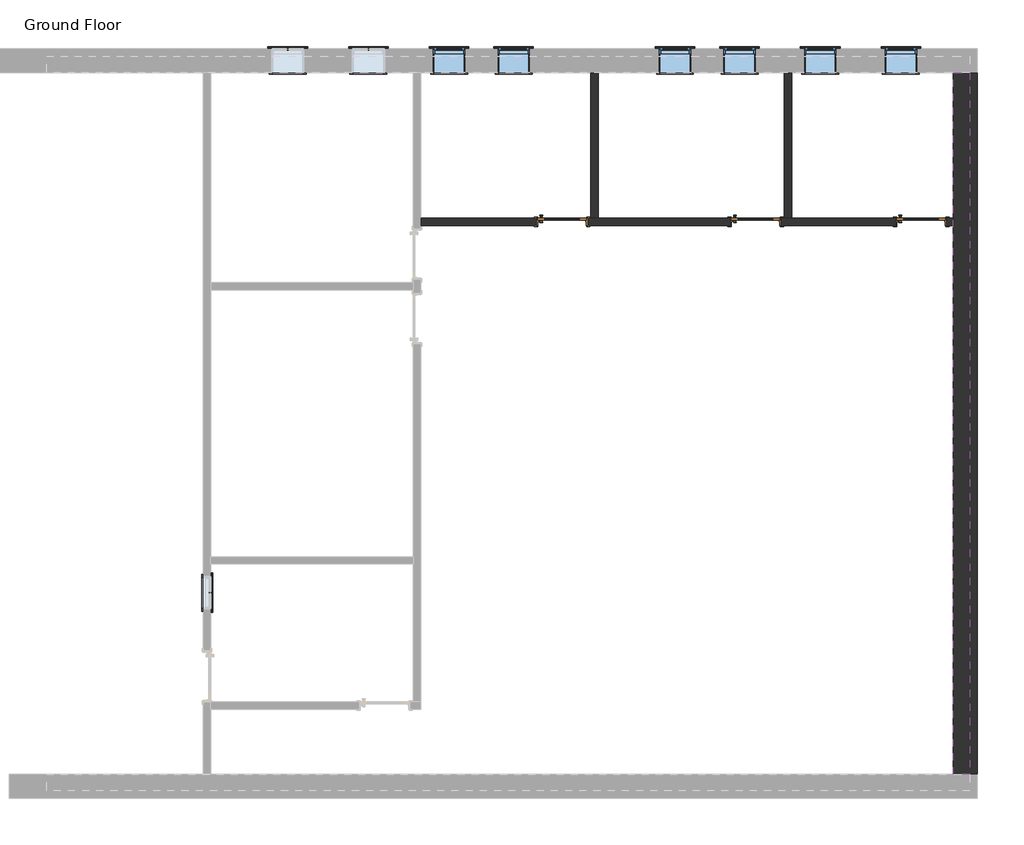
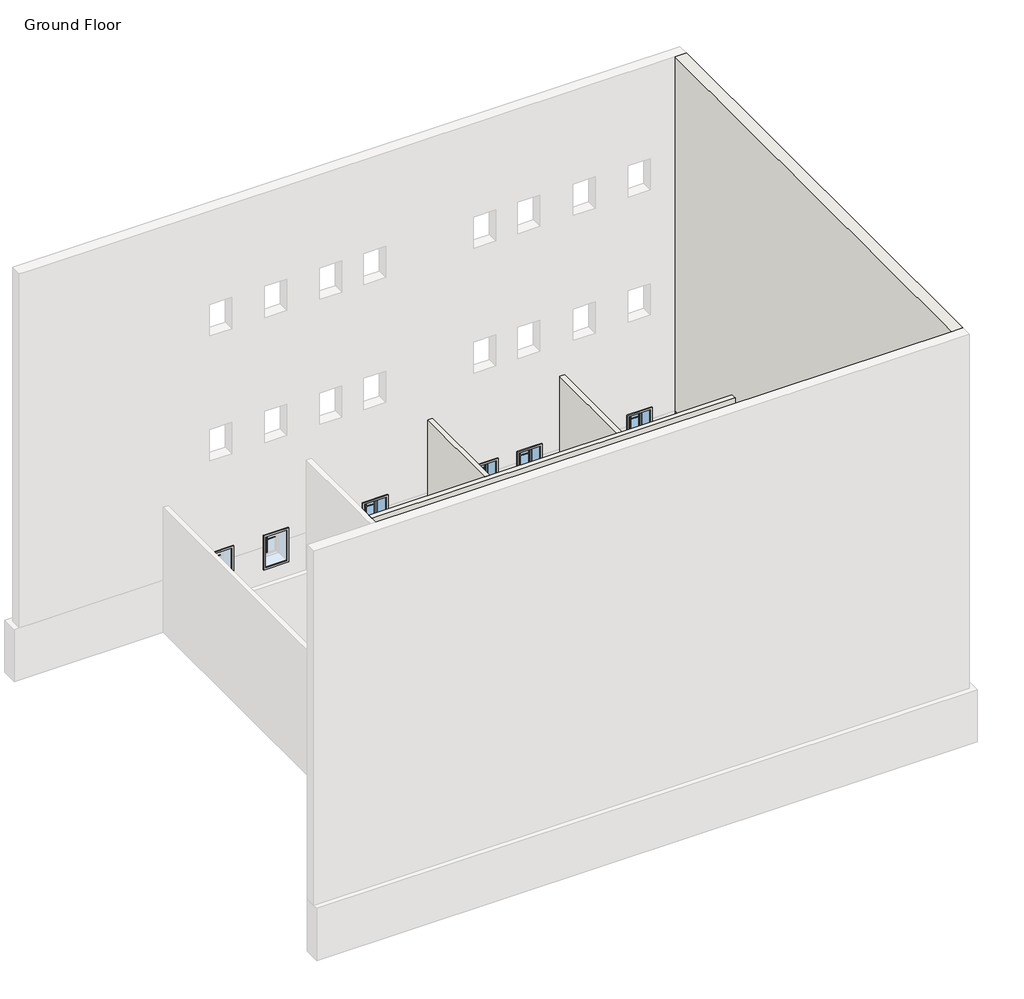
# One storey, part 2 of 2: 27 proxies, 6 windows, 5 walls, 3 doors.
"""IFC4 building model written with IfcOpenShell, lengths in millimetres."""

from ifc_helpers import new_model, si_unit, frame, origin, origin_with_axes, place, context, project, spatial, polyline, outline, extrude, faceted_brep, transform, mapped, element, save
from components import muntin_pattern_2x2_muntin_pattern_2x2_cf4092f1, muntin_pattern_2x2_muntin_pattern_2x2_49143b38, trim_window_exterior_flat_with_sill_a665a915, trim_window_exterior_flat_with_sill_4c72db77, trim_window_interior_flat_picture_frame_d485c387, trim_window_interior_flat_picture_frame_dfd23ff3, door_918c180d, window_1658a7ae, window_2d4a29d0

model = new_model("IFC4")

# Units and contexts
model_context = context("Model", 3, world=origin())
ifc_project = project(units=[si_unit("LENGTHUNIT", "METRE", prefix="MILLI")], contexts=[model_context])

# Site, building, storey
site = spatial("IfcSite", under=ifc_project)
building = spatial("IfcBuilding", under=site)
storey = spatial("IfcBuildingStorey", under=building, Name="Ground Floor", Elevation=0.0)

# Proxies
placement = place(None, origin())
muntin_pattern_2x2_muntin_pattern_2x2_shape = muntin_pattern_2x2_muntin_pattern_2x2_cf4092f1(model_context)
element("IfcBuildingElementProxy", 1, Name="Muntin Pattern_2x2 : Muntin Pattern_2x2", ObjectType="Muntin Pattern_2x2 : Muntin Pattern_2x2", at=placement, inside=storey, context=model_context, shape_type="MappedRepresentation", body=[
    mapped(muntin_pattern_2x2_muntin_pattern_2x2_shape, transform((-14168.6597136, 1858.8705992, 984.25), x_axis=(0.0, -1.0, 0.0), y_axis=(1.0, 0.0, 0.0), z_axis=(0.0, 0.0, 1.0))),
])
element("IfcBuildingElementProxy", 2, Name="Muntin Pattern_2x2 : Muntin Pattern_2x2", ObjectType="Muntin Pattern_2x2 : Muntin Pattern_2x2", at=placement, inside=storey, context=model_context, shape_type="MappedRepresentation", body=[
    mapped(muntin_pattern_2x2_muntin_pattern_2x2_shape, transform((-1122.5847136, 12134.7580992, 984.25), x_axis=(1.0, 0.0, 0.0), y_axis=(0.0, 1.0, 0.0), z_axis=(0.0, 0.0, 1.0))),
])
element("IfcBuildingElementProxy", 3, Name="Muntin Pattern_2x2 : Muntin Pattern_2x2", ObjectType="Muntin Pattern_2x2 : Muntin Pattern_2x2", at=placement, inside=storey, context=model_context, shape_type="MappedRepresentation", body=[
    mapped(muntin_pattern_2x2_muntin_pattern_2x2_shape, transform((-2646.5847136, 12134.7580992, 984.25), x_axis=(1.0, 0.0, 0.0), y_axis=(0.0, 1.0, 0.0), z_axis=(0.0, 0.0, 1.0))),
])
element("IfcBuildingElementProxy", 4, Name="Muntin Pattern_2x2 : Muntin Pattern_2x2", ObjectType="Muntin Pattern_2x2 : Muntin Pattern_2x2", at=placement, inside=storey, context=model_context, shape_type="MappedRepresentation", body=[
    mapped(muntin_pattern_2x2_muntin_pattern_2x2_shape, transform((-4170.5847136, 12134.7580992, 984.25), x_axis=(1.0, 0.0, 0.0), y_axis=(0.0, 1.0, 0.0), z_axis=(0.0, 0.0, 1.0))),
])
element("IfcBuildingElementProxy", 5, Name="Muntin Pattern_2x2 : Muntin Pattern_2x2", ObjectType="Muntin Pattern_2x2 : Muntin Pattern_2x2", at=placement, inside=storey, context=model_context, shape_type="MappedRepresentation", body=[
    mapped(muntin_pattern_2x2_muntin_pattern_2x2_shape, transform((-5389.7847136, 12134.7580992, 984.25), x_axis=(1.0, 0.0, 0.0), y_axis=(0.0, 1.0, 0.0), z_axis=(0.0, 0.0, 1.0))),
])
muntin_pattern_2x2_muntin_pattern_2x2_2_shape = muntin_pattern_2x2_muntin_pattern_2x2_49143b38(model_context)
element("IfcBuildingElementProxy", 6, Name="Muntin Pattern_2x2 : Muntin Pattern_2x2", ObjectType="Muntin Pattern_2x2 : Muntin Pattern_2x2", at=placement, inside=storey, context=model_context, shape_type="MappedRepresentation", body=[
    mapped(muntin_pattern_2x2_muntin_pattern_2x2_2_shape, transform((-12704.9847136, 12134.7580992, 984.25), x_axis=(-1.0, 0.0, 0.0), y_axis=(0.0, -1.0, 0.0), z_axis=(0.0, 0.0, 1.0))),
])
element("IfcBuildingElementProxy", 7, Name="Muntin Pattern_2x2 : Muntin Pattern_2x2", ObjectType="Muntin Pattern_2x2 : Muntin Pattern_2x2", at=placement, inside=storey, context=model_context, shape_type="MappedRepresentation", body=[
    mapped(muntin_pattern_2x2_muntin_pattern_2x2_2_shape, transform((-11180.9847136, 12134.7580992, 984.25), x_axis=(-1.0, 0.0, 0.0), y_axis=(0.0, -1.0, 0.0), z_axis=(0.0, 0.0, 1.0))),
])
element("IfcBuildingElementProxy", 8, Name="Muntin Pattern_2x2 : Muntin Pattern_2x2", ObjectType="Muntin Pattern_2x2 : Muntin Pattern_2x2", at=placement, inside=storey, context=model_context, shape_type="MappedRepresentation", body=[
    mapped(muntin_pattern_2x2_muntin_pattern_2x2_2_shape, transform((-9656.9847136, 12134.7580992, 984.25), x_axis=(-1.0, 0.0, 0.0), y_axis=(0.0, -1.0, 0.0), z_axis=(0.0, 0.0, 1.0))),
])
element("IfcBuildingElementProxy", 9, Name="Muntin Pattern_2x2 : Muntin Pattern_2x2", ObjectType="Muntin Pattern_2x2 : Muntin Pattern_2x2", at=placement, inside=storey, context=model_context, shape_type="MappedRepresentation", body=[
    mapped(muntin_pattern_2x2_muntin_pattern_2x2_2_shape, transform((-8437.7847136, 12134.7580992, 984.25), x_axis=(-1.0, 0.0, 0.0), y_axis=(0.0, -1.0, 0.0), z_axis=(0.0, 0.0, 1.0))),
])
trim_window_exterior_flat_with_sill_shape = trim_window_exterior_flat_with_sill_a665a915(model_context)
element("IfcBuildingElementProxy", 10, Name="Trim-Window-Exterior-Flat : with Sill", ObjectType="Trim-Window-Exterior-Flat : with Sill", at=placement, inside=storey, context=model_context, shape_type="MappedRepresentation", body=[
    mapped(trim_window_exterior_flat_with_sill_shape, transform((-14159.1347136, 1858.8705992, 1828.8), x_axis=(0.0, 1.0, 0.0), y_axis=(0.0, 0.0, 1.0), z_axis=(1.0, 0.0, 0.0))),
])
element("IfcBuildingElementProxy", 11, Name="Trim-Window-Exterior-Flat : with Sill", ObjectType="Trim-Window-Exterior-Flat : with Sill", at=placement, inside=storey, context=model_context, shape_type="MappedRepresentation", body=[
    mapped(trim_window_exterior_flat_with_sill_shape, transform((-1122.5847136, 12144.2830992, 1828.8), x_axis=(-1.0, 0.0, 0.0), y_axis=(0.0, 0.0, 1.0), z_axis=(0.0, 1.0, 0.0))),
])
element("IfcBuildingElementProxy", 12, Name="Trim-Window-Exterior-Flat : with Sill", ObjectType="Trim-Window-Exterior-Flat : with Sill", at=placement, inside=storey, context=model_context, shape_type="MappedRepresentation", body=[
    mapped(trim_window_exterior_flat_with_sill_shape, transform((-2646.5847136, 12144.2830992, 1828.8), x_axis=(-1.0, 0.0, 0.0), y_axis=(0.0, 0.0, 1.0), z_axis=(0.0, 1.0, 0.0))),
])
element("IfcBuildingElementProxy", 13, Name="Trim-Window-Exterior-Flat : with Sill", ObjectType="Trim-Window-Exterior-Flat : with Sill", at=placement, inside=storey, context=model_context, shape_type="MappedRepresentation", body=[
    mapped(trim_window_exterior_flat_with_sill_shape, transform((-4170.5847136, 12144.2830992, 1828.8), x_axis=(-1.0, 0.0, 0.0), y_axis=(0.0, 0.0, 1.0), z_axis=(0.0, 1.0, 0.0))),
])
element("IfcBuildingElementProxy", 14, Name="Trim-Window-Exterior-Flat : with Sill", ObjectType="Trim-Window-Exterior-Flat : with Sill", at=placement, inside=storey, context=model_context, shape_type="MappedRepresentation", body=[
    mapped(trim_window_exterior_flat_with_sill_shape, transform((-5389.7847136, 12144.2830992, 1828.8), x_axis=(-1.0, 0.0, 0.0), y_axis=(0.0, 0.0, 1.0), z_axis=(0.0, 1.0, 0.0))),
])
trim_window_exterior_flat_with_sill_2_shape = trim_window_exterior_flat_with_sill_4c72db77(model_context)
element("IfcBuildingElementProxy", 15, Name="Trim-Window-Exterior-Flat : with Sill", ObjectType="Trim-Window-Exterior-Flat : with Sill", at=placement, inside=storey, context=model_context, shape_type="MappedRepresentation", body=[
    mapped(trim_window_exterior_flat_with_sill_2_shape, transform((-12704.9847136, 12144.2830992, 1828.8), x_axis=(1.0, 0.0, 0.0), y_axis=(0.0, 0.0, -1.0), z_axis=(0.0, 1.0, 0.0))),
])
element("IfcBuildingElementProxy", 16, Name="Trim-Window-Exterior-Flat : with Sill", ObjectType="Trim-Window-Exterior-Flat : with Sill", at=placement, inside=storey, context=model_context, shape_type="MappedRepresentation", body=[
    mapped(trim_window_exterior_flat_with_sill_2_shape, transform((-11180.9847136, 12144.2830992, 1828.8), x_axis=(1.0, 0.0, 0.0), y_axis=(0.0, 0.0, -1.0), z_axis=(0.0, 1.0, 0.0))),
])
element("IfcBuildingElementProxy", 17, Name="Trim-Window-Exterior-Flat : with Sill", ObjectType="Trim-Window-Exterior-Flat : with Sill", at=placement, inside=storey, context=model_context, shape_type="MappedRepresentation", body=[
    mapped(trim_window_exterior_flat_with_sill_2_shape, transform((-9656.9847136, 12144.2830992, 1828.8), x_axis=(1.0, 0.0, 0.0), y_axis=(0.0, 0.0, -1.0), z_axis=(0.0, 1.0, 0.0))),
])
element("IfcBuildingElementProxy", 18, Name="Trim-Window-Exterior-Flat : with Sill", ObjectType="Trim-Window-Exterior-Flat : with Sill", at=placement, inside=storey, context=model_context, shape_type="MappedRepresentation", body=[
    mapped(trim_window_exterior_flat_with_sill_2_shape, transform((-8437.7847136, 12144.2830992, 1828.8), x_axis=(1.0, 0.0, 0.0), y_axis=(0.0, 0.0, -1.0), z_axis=(0.0, 1.0, 0.0))),
])
trim_window_interior_flat_picture_frame_shape = trim_window_interior_flat_picture_frame_d485c387(model_context)
element("IfcBuildingElementProxy", 19, Name="Trim-Window-Interior-Flat : Picture Frame", ObjectType="Trim-Window-Interior-Flat : Picture Frame", at=placement, inside=storey, context=model_context, shape_type="MappedRepresentation", body=[
    mapped(trim_window_interior_flat_picture_frame_shape, transform((-14298.8347136, 1858.8705992, 1828.8), x_axis=(0.0, -1.0, 0.0), y_axis=(0.0, 0.0, 1.0), z_axis=(-1.0, 0.0, 0.0))),
])
element("IfcBuildingElementProxy", 20, Name="Trim-Window-Interior-Flat : Picture Frame", ObjectType="Trim-Window-Interior-Flat : Picture Frame", at=placement, inside=storey, context=model_context, shape_type="MappedRepresentation", body=[
    mapped(trim_window_interior_flat_picture_frame_shape, transform((-1122.5847136, 11690.2580992, 1828.8), x_axis=(1.0, 0.0, 0.0), y_axis=(0.0, 0.0, 1.0), z_axis=(0.0, -1.0, 0.0))),
])
element("IfcBuildingElementProxy", 21, Name="Trim-Window-Interior-Flat : Picture Frame", ObjectType="Trim-Window-Interior-Flat : Picture Frame", at=placement, inside=storey, context=model_context, shape_type="MappedRepresentation", body=[
    mapped(trim_window_interior_flat_picture_frame_shape, transform((-2646.5847136, 11690.2580992, 1828.8), x_axis=(1.0, 0.0, 0.0), y_axis=(0.0, 0.0, 1.0), z_axis=(0.0, -1.0, 0.0))),
])
element("IfcBuildingElementProxy", 22, Name="Trim-Window-Interior-Flat : Picture Frame", ObjectType="Trim-Window-Interior-Flat : Picture Frame", at=placement, inside=storey, context=model_context, shape_type="MappedRepresentation", body=[
    mapped(trim_window_interior_flat_picture_frame_shape, transform((-4170.5847136, 11690.2580992, 1828.8), x_axis=(1.0, 0.0, 0.0), y_axis=(0.0, 0.0, 1.0), z_axis=(0.0, -1.0, 0.0))),
])
element("IfcBuildingElementProxy", 23, Name="Trim-Window-Interior-Flat : Picture Frame", ObjectType="Trim-Window-Interior-Flat : Picture Frame", at=placement, inside=storey, context=model_context, shape_type="MappedRepresentation", body=[
    mapped(trim_window_interior_flat_picture_frame_shape, transform((-5389.7847136, 11690.2580992, 1828.8), x_axis=(1.0, 0.0, 0.0), y_axis=(0.0, 0.0, 1.0), z_axis=(0.0, -1.0, 0.0))),
])
trim_window_interior_flat_picture_frame_2_shape = trim_window_interior_flat_picture_frame_dfd23ff3(model_context)
element("IfcBuildingElementProxy", 24, Name="Trim-Window-Interior-Flat : Picture Frame", ObjectType="Trim-Window-Interior-Flat : Picture Frame", at=placement, inside=storey, context=model_context, shape_type="MappedRepresentation", body=[
    mapped(trim_window_interior_flat_picture_frame_2_shape, transform((-12704.9847136, 11690.2580992, 1828.8), x_axis=(-1.0, 0.0, 0.0), y_axis=(0.0, 0.0, -1.0), z_axis=(0.0, -1.0, 0.0))),
])
element("IfcBuildingElementProxy", 25, Name="Trim-Window-Interior-Flat : Picture Frame", ObjectType="Trim-Window-Interior-Flat : Picture Frame", at=placement, inside=storey, context=model_context, shape_type="MappedRepresentation", body=[
    mapped(trim_window_interior_flat_picture_frame_2_shape, transform((-11180.9847136, 11690.2580992, 1828.8), x_axis=(-1.0, 0.0, 0.0), y_axis=(0.0, 0.0, -1.0), z_axis=(0.0, -1.0, 0.0))),
])
element("IfcBuildingElementProxy", 26, Name="Trim-Window-Interior-Flat : Picture Frame", ObjectType="Trim-Window-Interior-Flat : Picture Frame", at=placement, inside=storey, context=model_context, shape_type="MappedRepresentation", body=[
    mapped(trim_window_interior_flat_picture_frame_2_shape, transform((-9656.9847136, 11690.2580992, 1828.8), x_axis=(-1.0, 0.0, 0.0), y_axis=(0.0, 0.0, -1.0), z_axis=(0.0, -1.0, 0.0))),
])
element("IfcBuildingElementProxy", 27, Name="Trim-Window-Interior-Flat : Picture Frame", ObjectType="Trim-Window-Interior-Flat : Picture Frame", at=placement, inside=storey, context=model_context, shape_type="MappedRepresentation", body=[
    mapped(trim_window_interior_flat_picture_frame_2_shape, transform((-8437.7847136, 11690.2580992, 1828.8), x_axis=(-1.0, 0.0, 0.0), y_axis=(0.0, 0.0, -1.0), z_axis=(0.0, -1.0, 0.0))),
])

# Doors
door_shape = door_918c180d(model_context)
element("IfcDoor", 28, ObjectType="Door-Interior-Single-Full Glass-Wood : 36\" x 84\"", at=placement, inside=storey, context=model_context, shape_type="MappedRepresentation", body=[
    mapped(door_shape, transform((-7523.3847136, 8872.4455992, 0.0), x_axis=(1.0, 0.0, 0.0), y_axis=(0.0, 1.0, 0.0), z_axis=(0.0, 0.0, 1.0))),
])
element("IfcDoor", 29, ObjectType="Door-Interior-Single-Full Glass-Wood : 36\" x 84\"", at=placement, inside=storey, context=model_context, shape_type="MappedRepresentation", body=[
    mapped(door_shape, transform((-3865.7847136, 8872.4455992, 0.0), x_axis=(1.0, 0.0, 0.0), y_axis=(0.0, 1.0, 0.0), z_axis=(0.0, 0.0, 1.0))),
])
element("IfcDoor", 30, ObjectType="Door-Interior-Single-Full Glass-Wood : 36\" x 84\"", at=placement, inside=storey, context=model_context, shape_type="MappedRepresentation", body=[
    mapped(door_shape, transform((-739.9972136, 8872.4455992, 0.0), x_axis=(1.0, 0.0, 0.0), y_axis=(0.0, 1.0, 0.0), z_axis=(0.0, 0.0, 1.0))),
])

# Walls
element("IfcWall", 31, ObjectType="Exterior - CMU on Mtl. Stud", at=placement, inside=storey, context=model_context, shape_type="Brep", body=[
    faceted_brep([(-130.3972136, 11690.2580992, 0.0), (-130.3972136, 8939.1205992, 0.0), (-130.3972136, 8799.4205992, 0.0), (-130.3972136, -1571.7169008, 0.0), (-130.3972136, -1571.7169008, 1524.0), (-130.3972136, 11690.2580992, 1524.0), (323.6277864, 11690.2580992, 0.0), (323.6277864, 11690.2580992, 1524.0), (323.6277864, -1571.7169008, 1524.0), (323.6277864, -1571.7169008, 0.0), (180.7527864, -1571.7169008, 1524.0), (180.7527864, 11690.2580992, 1524.0)], [[[0, 1, 2, 3, 4, 5]], [[6, 7, 8, 9]], [[3, 2, 1, 0, 6, 9]], [[5, 4, 10, 8, 7, 11]], [[0, 5, 11, 7, 6]], [[4, 3, 9, 8, 10]]]),
])
element("IfcWall", 32, ObjectType="Exterior - EIFS on Mtl. Stud", at=placement, inside=storey, context=model_context, shape_type="SweptSolid", body=[
    extrude(outline(polyline([(-130.3972136, -1571.7169008), (-130.3972136, 11690.2580992), (180.7527864, 11690.2580992), (180.7527864, -1571.7169008), (-130.3972136, -1571.7169008)])), frame((0.0, 0.0, 1524.0), z_axis=(0.0, 0.0, 1.0), x_axis=(1.0, 0.0, 0.0)), (0.0, 0.0, 1.0), 10363.2),
])
element("IfcWall", 33, ObjectType="Interior - 5 1/2\" Partition (1-hr)", at=placement, inside=storey, context=model_context, shape_type="Brep", body=[
    faceted_brep([(-10196.7347136, 8939.1205992, 3657.6), (-6983.6347136, 8939.1205992, 3657.6), (-6843.9347136, 8939.1205992, 3657.6), (-3326.0347136, 8939.1205992, 3657.6), (-3186.3347136, 8939.1205992, 3657.6), (-130.3972136, 8939.1205992, 3657.6), (-130.3972136, 8939.1205992, 0.0), (-257.3972136, 8939.1205992, 0.0), (-257.3972136, 8939.1205992, 2159.0), (-1222.5972136, 8939.1205992, 2159.0), (-1222.5972136, 8939.1205992, 0.0), (-3186.3347136, 8939.1205992, 0.0), (-3326.0347136, 8939.1205992, 0.0), (-3383.1847136, 8939.1205992, 0.0), (-3383.1847136, 8939.1205992, 2159.0), (-4348.3847136, 8939.1205992, 2159.0), (-4348.3847136, 8939.1205992, 0.0), (-6843.9347136, 8939.1205992, 0.0), (-6983.6347136, 8939.1205992, 0.0), (-7040.7847136, 8939.1205992, 0.0), (-7040.7847136, 8939.1205992, 2159.0), (-8005.9847136, 8939.1205992, 2159.0), (-8005.9847136, 8939.1205992, 0.0), (-10196.7347136, 8939.1205992, 0.0), (-130.3972136, 8799.4205992, 3657.6), (-10196.7347136, 8799.4205992, 3657.6), (-10196.7347136, 8799.4205992, 0.0), (-8005.9847136, 8799.4205992, 0.0), (-8005.9847136, 8799.4205992, 2159.0), (-7040.7847136, 8799.4205992, 2159.0), (-7040.7847136, 8799.4205992, 0.0), (-4348.3847136, 8799.4205992, 0.0), (-4348.3847136, 8799.4205992, 2159.0), (-3383.1847136, 8799.4205992, 2159.0), (-3383.1847136, 8799.4205992, 0.0), (-1222.5972136, 8799.4205992, 0.0), (-1222.5972136, 8799.4205992, 2159.0), (-257.3972136, 8799.4205992, 2159.0), (-257.3972136, 8799.4205992, 0.0), (-130.3972136, 8799.4205992, 0.0)], [[[0, 1, 2, 3, 4, 5, 6, 7, 8, 9, 10, 11, 12, 13, 14, 15, 16, 17, 18, 19, 20, 21, 22, 23]], [[24, 25, 26, 27, 28, 29, 30, 31, 32, 33, 34, 35, 36, 37, 38, 39]], [[6, 39, 38, 7]], [[26, 23, 22, 27]], [[30, 19, 18, 17, 16, 31]], [[34, 13, 12, 11, 10, 35]], [[5, 4, 3, 2, 1, 0, 25, 24]], [[39, 6, 5, 24]], [[0, 23, 26, 25]], [[29, 20, 19, 30]], [[20, 29, 28, 21]], [[21, 28, 27, 22]], [[33, 14, 13, 34]], [[14, 33, 32, 15]], [[15, 32, 31, 16]], [[37, 8, 7, 38]], [[8, 37, 36, 9]], [[9, 36, 35, 10]]]),
])
element("IfcWall", 34, ObjectType="Interior - 5 1/2\" Partition (1-hr)", at=placement, inside=storey, context=model_context, shape_type="SweptSolid", body=[
    extrude(outline(polyline([(-3326.0347136, 8939.1205992), (-3326.0347136, 11690.2580992), (-3186.3347136, 11690.2580992), (-3186.3347136, 8939.1205992), (-3326.0347136, 8939.1205992)])), origin_with_axes(), (0.0, 0.0, 1.0), 3657.6),
])
element("IfcWall", 35, ObjectType="Interior - 5 1/2\" Partition (1-hr)", at=placement, inside=storey, context=model_context, shape_type="SweptSolid", body=[
    extrude(outline(polyline([(-6983.6347136, 8939.1205992), (-6983.6347136, 11690.2580992), (-6843.9347136, 11690.2580992), (-6843.9347136, 8939.1205992), (-6983.6347136, 8939.1205992)])), origin_with_axes(), (0.0, 0.0, 1.0), 3657.6),
])

# Windows
window_shape = window_1658a7ae(model_context)
element("IfcWindow", 36, ObjectType="Window-Awning-Single : 24\" x 36\"", at=placement, inside=storey, context=model_context, shape_type="MappedRepresentation", body=[
    mapped(window_shape, transform((-1122.5847136, 11917.2705992, 0.0), x_axis=(1.0, 0.0, 0.0), y_axis=(0.0, 1.0, 0.0), z_axis=(0.0, 0.0, 1.0))),
])
element("IfcWindow", 37, ObjectType="Window-Awning-Single : 24\" x 36\"", at=placement, inside=storey, context=model_context, shape_type="MappedRepresentation", body=[
    mapped(window_shape, transform((-2646.5847136, 11917.2705992, 0.0), x_axis=(1.0, 0.0, 0.0), y_axis=(0.0, 1.0, 0.0), z_axis=(0.0, 0.0, 1.0))),
])
element("IfcWindow", 38, ObjectType="Window-Awning-Single : 24\" x 36\"", at=placement, inside=storey, context=model_context, shape_type="MappedRepresentation", body=[
    mapped(window_shape, transform((-4170.5847136, 11917.2705992, 0.0), x_axis=(1.0, 0.0, 0.0), y_axis=(0.0, 1.0, 0.0), z_axis=(0.0, 0.0, 1.0))),
])
element("IfcWindow", 39, ObjectType="Window-Awning-Single : 24\" x 36\"", at=placement, inside=storey, context=model_context, shape_type="MappedRepresentation", body=[
    mapped(window_shape, transform((-5389.7847136, 11917.2705992, 0.0), x_axis=(1.0, 0.0, 0.0), y_axis=(0.0, 1.0, 0.0), z_axis=(0.0, 0.0, 1.0))),
])
window_2_shape = window_2d4a29d0(model_context)
element("IfcWindow", 40, ObjectType="Window-Awning-Single : 24\" x 36\"", at=placement, inside=storey, context=model_context, shape_type="MappedRepresentation", body=[
    mapped(window_2_shape, transform((-9656.9847136, 11917.2705992, 0.0), x_axis=(-1.0, 0.0, 0.0), y_axis=(0.0, -1.0, 0.0), z_axis=(0.0, 0.0, 1.0))),
])
element("IfcWindow", 41, ObjectType="Window-Awning-Single : 24\" x 36\"", at=placement, inside=storey, context=model_context, shape_type="MappedRepresentation", body=[
    mapped(window_2_shape, transform((-8437.7847136, 11917.2705992, 0.0), x_axis=(-1.0, 0.0, 0.0), y_axis=(0.0, -1.0, 0.0), z_axis=(0.0, 0.0, 1.0))),
])

save(model, "model.ifc")
